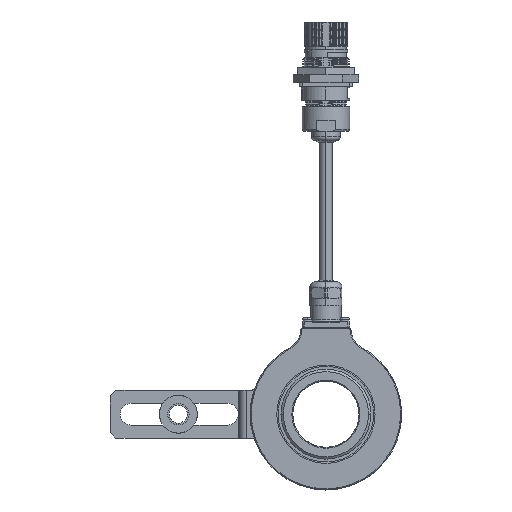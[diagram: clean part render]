
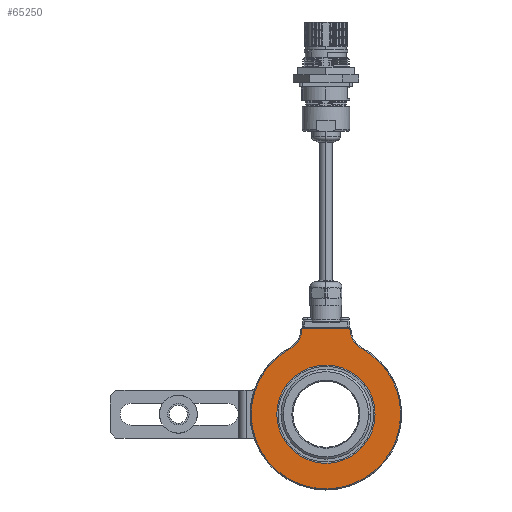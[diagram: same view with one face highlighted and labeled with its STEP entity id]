
A CAD part, left-side view. The second image highlights one B-rep face of the part: STEP entity #65250.
In plain terms, the highlighted planar face has unit normal (-1, 0, 0).
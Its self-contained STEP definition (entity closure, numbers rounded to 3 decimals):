
#331 = AXIS2_PLACEMENT_3D ( 'NONE', #56934, #7840, #29236 ) ;
#1291 = CARTESIAN_POINT ( 'NONE',  ( -26., 0., 0. ) ) ;
#1813 = CARTESIAN_POINT ( 'NONE',  ( -26., 0., 0. ) ) ;
#2333 = DIRECTION ( 'NONE',  ( 0., -1., 0. ) ) ;
#2604 = EDGE_CURVE ( 'NONE', #4391, #33317, #17074, .T. ) ;
#2905 = EDGE_CURVE ( 'NONE', #56756, #60592, #35734, .T. ) ;
#3833 = DIRECTION ( 'NONE',  ( -1., 0., 0. ) ) ;
#4391 = VERTEX_POINT ( 'NONE', #31566 ) ;
#4439 = CIRCLE ( 'NONE', #6692, 10.5 ) ;
#5242 = VERTEX_POINT ( 'NONE', #65444 ) ;
#5292 = ORIENTED_EDGE ( 'NONE', *, *, #28528, .T. ) ;
#6403 = VECTOR ( 'NONE', #36914, 1000. ) ;
#6434 = EDGE_LOOP ( 'NONE', ( #33114, #67337, #43954, #5292, #22290, #14612, #34052, #23365 ) ) ;
#6692 = AXIS2_PLACEMENT_3D ( 'NONE', #20272, #69362, #69006 ) ;
#7064 = DIRECTION ( 'NONE',  ( 0., 0.174, 0.985 ) ) ;
#7840 = DIRECTION ( 'NONE',  ( -1., 0., 0. ) ) ;
#8883 = LINE ( 'NONE', #52340, #6403 ) ;
#9609 = CIRCLE ( 'NONE', #63380, 26. ) ;
#11622 = DIRECTION ( 'NONE',  ( 0., 1., 0. ) ) ;
#11812 = DIRECTION ( 'NONE',  ( 1., 0., 0. ) ) ;
#12663 = LINE ( 'NONE', #55105, #55658 ) ;
#14612 = ORIENTED_EDGE ( 'NONE', *, *, #2604, .T. ) ;
#15676 = DIRECTION ( 'NONE',  ( 0., -1., 0. ) ) ;
#17074 = CIRCLE ( 'NONE', #331, 39.5 ) ;
#17107 = CARTESIAN_POINT ( 'NONE',  ( -26., -39.5, 0. ) ) ;
#17945 = VERTEX_POINT ( 'NONE', #58258 ) ;
#20272 = CARTESIAN_POINT ( 'NONE',  ( -26., 23.482, 44.143 ) ) ;
#20939 = CARTESIAN_POINT ( 'NONE',  ( -26., 0., 0. ) ) ;
#21069 = LINE ( 'NONE', #26667, #63385 ) ;
#21250 = EDGE_CURVE ( 'NONE', #54586, #4391, #27280, .T. ) ;
#22168 = CARTESIAN_POINT ( 'NONE',  ( -26., -13.141, 42.32 ) ) ;
#22290 = ORIENTED_EDGE ( 'NONE', *, *, #21250, .T. ) ;
#23365 = ORIENTED_EDGE ( 'NONE', *, *, #48670, .T. ) ;
#24545 = EDGE_CURVE ( 'NONE', #35169, #38379, #8883, .T. ) ;
#24763 = EDGE_CURVE ( 'NONE', #26794, #5242, #12663, .T. ) ;
#26667 = CARTESIAN_POINT ( 'NONE',  ( -26., 40., 45.5 ) ) ;
#26794 = VERTEX_POINT ( 'NONE', #22168 ) ;
#27280 = CIRCLE ( 'NONE', #29549, 39.5 ) ;
#27441 = AXIS2_PLACEMENT_3D ( 'NONE', #20939, #64065, #15676 ) ;
#28528 = EDGE_CURVE ( 'NONE', #38379, #54586, #4439, .T. ) ;
#29236 = DIRECTION ( 'NONE',  ( 0., -1., 0. ) ) ;
#29549 = AXIS2_PLACEMENT_3D ( 'NONE', #1291, #48971, #55600 ) ;
#31050 = CARTESIAN_POINT ( 'NONE',  ( -26., -26., 0. ) ) ;
#31566 = CARTESIAN_POINT ( 'NONE',  ( -26., 39.5, 0. ) ) ;
#32626 = DIRECTION ( 'NONE',  ( 0., 1., 0. ) ) ;
#33114 = ORIENTED_EDGE ( 'NONE', *, *, #24763, .T. ) ;
#33317 = VERTEX_POINT ( 'NONE', #17107 ) ;
#34052 = ORIENTED_EDGE ( 'NONE', *, *, #38258, .T. ) ;
#35169 = VERTEX_POINT ( 'NONE', #63610 ) ;
#35461 = CARTESIAN_POINT ( 'NONE',  ( -26., 18.551, 34.873 ) ) ;
#35734 = CIRCLE ( 'NONE', #39129, 26. ) ;
#35802 = AXIS2_PLACEMENT_3D ( 'NONE', #67684, #3833, #42043 ) ;
#36328 = CIRCLE ( 'NONE', #43075, 10.5 ) ;
#36914 = DIRECTION ( 'NONE',  ( 0., 0.174, -0.985 ) ) ;
#38258 = EDGE_CURVE ( 'NONE', #33317, #17945, #53147, .T. ) ;
#38379 = VERTEX_POINT ( 'NONE', #54579 ) ;
#39007 = CARTESIAN_POINT ( 'NONE',  ( -26., 26., 0. ) ) ;
#39112 = DIRECTION ( 'NONE',  ( 0., 1., 0. ) ) ;
#39129 = AXIS2_PLACEMENT_3D ( 'NONE', #1813, #65990, #11622 ) ;
#42043 = DIRECTION ( 'NONE',  ( 0., -1., 0. ) ) ;
#43075 = AXIS2_PLACEMENT_3D ( 'NONE', #66526, #11812, #2333 ) ;
#43954 = ORIENTED_EDGE ( 'NONE', *, *, #24545, .T. ) ;
#44377 = DIRECTION ( 'NONE',  ( 1., 0., 0. ) ) ;
#44657 = ORIENTED_EDGE ( 'NONE', *, *, #62712, .T. ) ;
#46955 = FACE_OUTER_BOUND ( 'NONE', #6434, .T. ) ;
#48670 = EDGE_CURVE ( 'NONE', #17945, #26794, #36328, .T. ) ;
#48971 = DIRECTION ( 'NONE',  ( -1., 0., 0. ) ) ;
#49621 = CARTESIAN_POINT ( 'NONE',  ( -26., 0., 0. ) ) ;
#50641 = EDGE_CURVE ( 'NONE', #5242, #35169, #21069, .T. ) ;
#51879 = FACE_BOUND ( 'NONE', #54906, .T. ) ;
#52340 = CARTESIAN_POINT ( 'NONE',  ( -26., 21.188, -3.317 ) ) ;
#53147 = CIRCLE ( 'NONE', #27441, 39.5 ) ;
#54579 = CARTESIAN_POINT ( 'NONE',  ( -26., 13.141, 42.32 ) ) ;
#54586 = VERTEX_POINT ( 'NONE', #35461 ) ;
#54906 = EDGE_LOOP ( 'NONE', ( #60248, #44657 ) ) ;
#55105 = CARTESIAN_POINT ( 'NONE',  ( -26., -18.776, 10.364 ) ) ;
#55600 = DIRECTION ( 'NONE',  ( 0., -1., 0. ) ) ;
#55658 = VECTOR ( 'NONE', #7064, 1000. ) ;
#56756 = VERTEX_POINT ( 'NONE', #39007 ) ;
#56934 = CARTESIAN_POINT ( 'NONE',  ( -26., 0., 0. ) ) ;
#57145 = PLANE ( 'NONE',  #35802 ) ;
#58258 = CARTESIAN_POINT ( 'NONE',  ( -26., -18.551, 34.873 ) ) ;
#60248 = ORIENTED_EDGE ( 'NONE', *, *, #2905, .T. ) ;
#60592 = VERTEX_POINT ( 'NONE', #31050 ) ;
#62712 = EDGE_CURVE ( 'NONE', #60592, #56756, #9609, .T. ) ;
#63380 = AXIS2_PLACEMENT_3D ( 'NONE', #49621, #44377, #39112 ) ;
#63385 = VECTOR ( 'NONE', #32626, 1000. ) ;
#63610 = CARTESIAN_POINT ( 'NONE',  ( -26., 12.58, 45.5 ) ) ;
#64065 = DIRECTION ( 'NONE',  ( -1., 0., 0. ) ) ;
#65250 = ADVANCED_FACE ( 'NONE', ( #46955, #51879 ), #57145, .T. ) ;
#65444 = CARTESIAN_POINT ( 'NONE',  ( -26., -12.58, 45.5 ) ) ;
#65990 = DIRECTION ( 'NONE',  ( 1., 0., 0. ) ) ;
#66526 = CARTESIAN_POINT ( 'NONE',  ( -26., -23.482, 44.143 ) ) ;
#67337 = ORIENTED_EDGE ( 'NONE', *, *, #50641, .T. ) ;
#67684 = CARTESIAN_POINT ( 'NONE',  ( -26., 40., 0. ) ) ;
#69006 = DIRECTION ( 'NONE',  ( 0., -1., 0. ) ) ;
#69362 = DIRECTION ( 'NONE',  ( 1., 0., 0. ) ) ;
